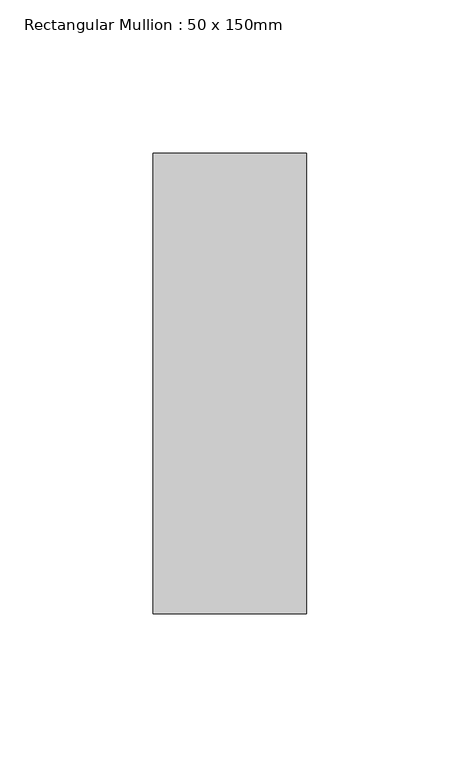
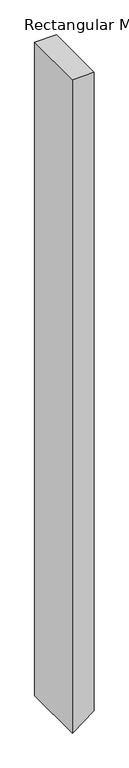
"""IFC4 building model written with IfcOpenShell, lengths in millimetres: member geometry, Rectangular Mullion : 50 x 150mm."""

from ifc_helpers import new_model, si_unit, frame, origin, place, context, project, spatial, polyline, outline, extrude, source, transform, mapped, element, save


def rectangular_mullion_50_x_150mm_ab6554a8(model_context):
    return source(origin(), model_context, "Body", "SweptSolid", [
        extrude(outline(polyline([(0.0, 25.0), (0.0, -25.0), (-1586.0278918, -25.0), (-1549.0235135, 25.0), (0.0, 25.0)])), frame((0.0, -75.0, 0.0), z_axis=(0.0, 1.0, 0.0), x_axis=(0.0, 0.0, 1.0)), (0.0, 0.0, 1.0), 150.0),
    ])


if __name__ == "__main__":
    model = new_model("IFC4")
    model_context = context("Model", 3, world=origin())
    ifc_project = project(units=[si_unit("LENGTHUNIT", "METRE", prefix="MILLI")], contexts=[model_context])
    site = spatial("IfcSite", under=ifc_project)
    building = spatial("IfcBuilding", under=site)
    placement = place(None, origin())
    rectangular_mullion_50_x_150mm_shape = rectangular_mullion_50_x_150mm_ab6554a8(model_context)
    element("IfcMember", 1, ObjectType="Rectangular Mullion : 50 x 150mm", at=placement, inside=building, context=model_context, shape_type="MappedRepresentation", body=[
        mapped(rectangular_mullion_50_x_150mm_shape, transform((0.0, 0.0, 0.0), x_axis=(1.0, 0.0, 0.0), y_axis=(0.0, 1.0, 0.0), z_axis=(0.0, 0.0, 1.0))),
    ])
    save(model, "model.ifc")
